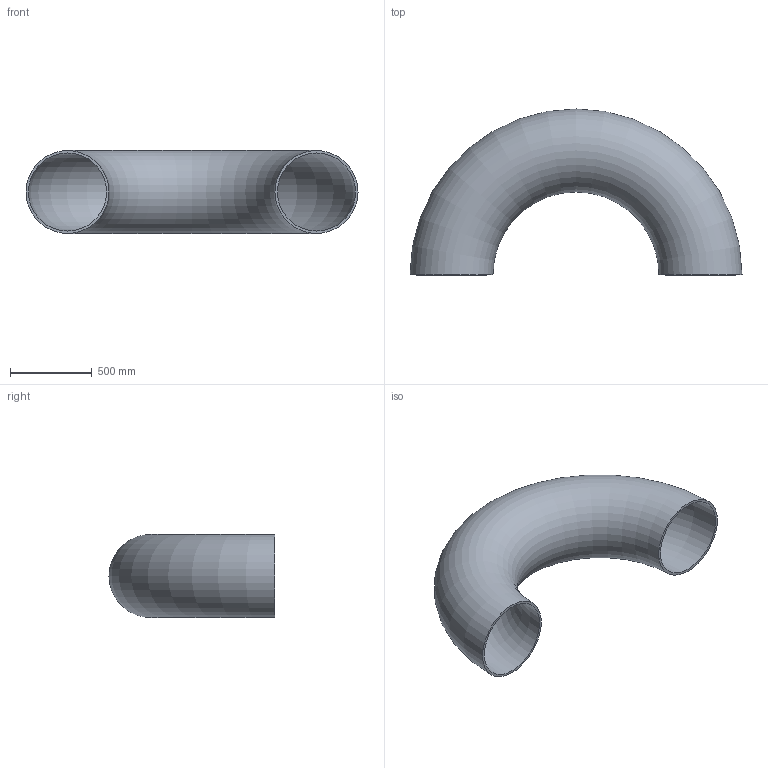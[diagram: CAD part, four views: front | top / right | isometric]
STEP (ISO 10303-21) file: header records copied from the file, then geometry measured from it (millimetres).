
FILE_DESCRIPTION(/* description */ (''),/* implementation_level */ '2;1');
FILE_NAME(/* name */ 'C:\Users\D\Documents\Inventor\HP\JIS\配管\エルボ ロング 180°\Sch40\Elbow180-long-500A-Sch40.stp',/* time_stamp */ '2022-06-14T14:52:50+09:00',/* author */ ('D'),/* organization */ (''),/* preprocessor_version */ 'ST-DEVELOPER v18',/* originating_system */ 'Autodesk Inventor 2020',/* authorisation */ '');
FILE_SCHEMA (('AUTOMOTIVE_DESIGN { 1 0 10303 214 3 1 1 }'));
Length unit declared in the file: millimetre
Products named in the file (1): Elbow-long-90-15A-SGP
Bounding box: 2032 x 1016 x 508 mm (x, y, z)
Volume: 55974533.4 mm3; surface area: 7460609.9 mm2
Topology: 1 solids, 1 shells, 4 faces, 10 edges, 8 vertices
Faces by surface type: torus 2, plane 2
Entity records: 181 total; most frequent: DIRECTION 30, CARTESIAN_POINT 23, ORIENTED_EDGE 20, AXIS2_PLACEMENT_3D 15, CIRCLE 10, EDGE_CURVE 10, VERTEX_POINT 8, EDGE_LOOP 6
